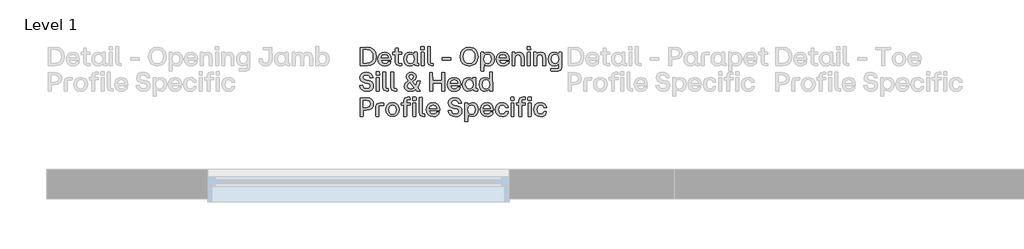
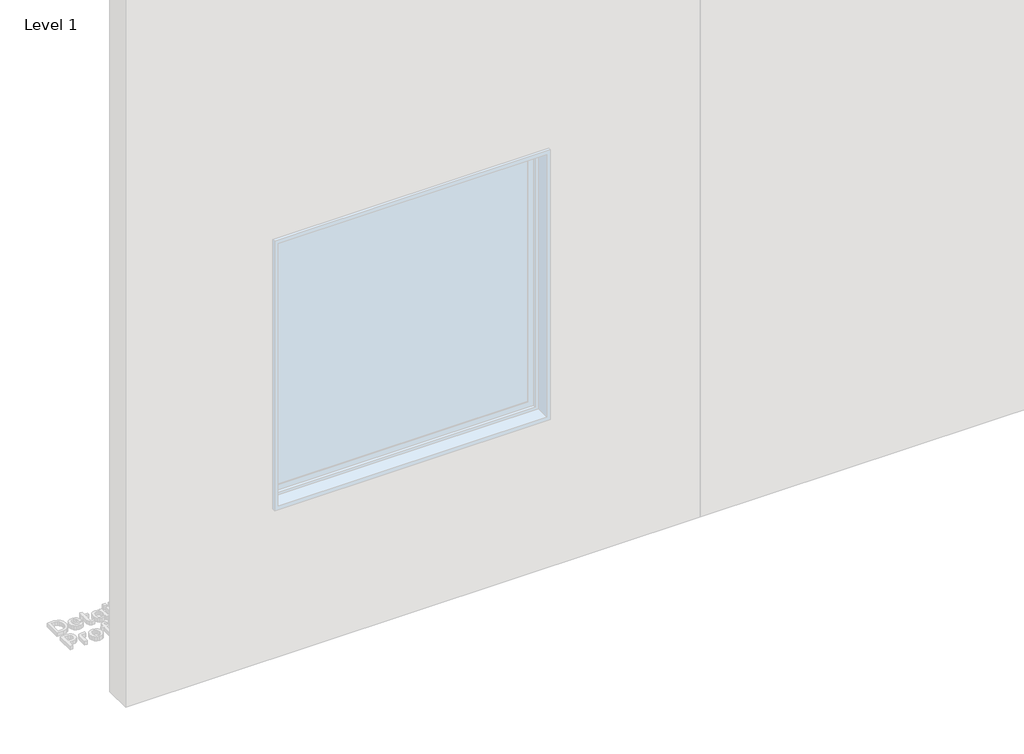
# One storey, part 38 of 64: 1 proxy.
"""IFC4 building model written with IfcOpenShell, lengths in millimetres."""

from ifc_helpers import new_model, si_unit, origin, origin_with_axes, place, context, project, spatial, polyline, outline, extrude, element, save

model = new_model("IFC4")

# Units and contexts
model_context = context("Model", 3, world=origin())
ifc_project = project(units=[si_unit("LENGTHUNIT", "METRE", prefix="MILLI")], contexts=[model_context])

# Site, building, storey
site = spatial("IfcSite", under=ifc_project)
building = spatial("IfcBuilding", under=site)
storey = spatial("IfcBuildingStorey", under=building, Name="Level 1", Elevation=0.0)

# Proxy
placement = place(None, origin())
element("IfcBuildingElementProxy", 1, Name="90mm", ObjectType="90mm", at=placement, inside=storey, context=model_context, shape_type="SweptSolid", body=[
    extrude(outline(polyline([(15110.2926176, -6500.0), (15108.9872124, -6498.7448027), (15108.9872124, -6411.3077612), (15142.5511873, -6410.002356), (15160.5475781, -6413.0054155), (15174.1193986, -6422.0145938), (15182.63905, -6436.3583606), (15185.4789338, -6455.3651852), (15182.648464, -6474.2025582), (15174.1570545, -6488.2890095), (15160.594648, -6497.0722524), (15142.5511873, -6500.0), (15110.2926176, -6500.0)]), holes=[polyline([(15123.7985402, -6487.3727155), (15141.6725492, -6487.3727155), (15153.8950326, -6485.311054), (15162.9481429, -6479.1260695), (15168.5494607, -6469.0625254), (15170.4165666, -6455.3651852), (15168.5431847, -6441.5109454), (15162.923039, -6431.1775339), (15153.8636527, -6424.7477859), (15141.6725492, -6422.6045366), (15123.7985402, -6422.6045366), (15123.7985402, -6487.3727155)])]), origin_with_axes(), (0.0, 0.0, 1.0), 20.0),
    extrude(outline(polyline([(15227.628458, -6500.7531184), (15214.0409476, -6498.4843493), (15203.5035666, -6491.6780421), (15196.7443293, -6481.0622112), (15194.4912502, -6467.3648711), (15196.7349153, -6453.5012173), (15203.4659107, -6442.7881086), (15213.9938777, -6435.9347315), (15227.628458, -6433.6502725), (15240.1584647, -6435.9033516), (15249.7324819, -6442.6625889), (15255.8044987, -6453.3129377), (15257.8285043, -6467.2393514), (15257.8285043, -6470.6785919), (15256.573307, -6472.009101), (15209.1268503, -6472.009101), (15214.6497183, -6484.6865934), (15227.628458, -6489.2053035), (15238.0465953, -6486.9082925), (15243.4439436, -6480.4691305), (15244.8246606, -6479.4147648), (15256.1967478, -6479.4147648), (15254.1633282, -6488.7314665), (15247.8120301, -6495.1925945), (15238.8248176, -6499.3629874), (15227.628458, -6500.7531184)]), holes=[polyline([(15209.2523701, -6461.5909637), (15243.8205028, -6461.5909637), (15239.0633051, -6449.6289337), (15227.628458, -6445.2733992), (15214.8631018, -6449.4155502), (15209.2523701, -6461.5909637)])]), origin_with_axes(), (0.0, 0.0, 1.0), 20.0),
    extrude(outline(polyline([(15296.6140998, -6500.0), (15282.731618, -6495.2302504), (15277.9618684, -6481.3477686), (15277.9618684, -6445.7754781), (15266.7906127, -6445.7754781), (15265.4852076, -6435.7339), (15266.7906127, -6434.4787027), (15277.9618684, -6434.4787027), (15277.9618684, -6416.45407), (15279.2170657, -6415.1486648), (15290.9657121, -6415.1486648), (15292.2209094, -6416.45407), (15292.2209094, -6434.4787027), (15308.0363949, -6434.4787027), (15309.3418001, -6435.7339), (15309.3418001, -6444.444969), (15292.2209094, -6445.7754781), (15292.2209094, -6488.7032246), (15308.0363949, -6488.7032246), (15309.3418001, -6489.9584219), (15309.3418001, -6498.7448027), (15308.0363949, -6500.0), (15296.6140998, -6500.0)])), origin_with_axes(), (0.0, 0.0, 1.0), 20.0),
    extrude(outline(polyline([(15347.2738615, -6500.7531184), (15335.3243835, -6498.4843493), (15326.0861316, -6491.6780421), (15320.1741525, -6481.0622112), (15318.2034928, -6467.3648711), (15320.1741525, -6453.5325972), (15326.0861316, -6442.8132125), (15335.3243835, -6435.9410075), (15347.2738615, -6433.6502725), (15359.1856835, -6436.5372262), (15368.160344, -6444.444969), (15368.7377347, -6435.7339), (15369.992932, -6434.4787027), (15381.6662665, -6434.4787027), (15382.9716717, -6435.7339), (15382.9716717, -6488.7032246), (15390.0760882, -6488.7032246), (15391.3312855, -6489.9584219), (15391.3312855, -6498.7448027), (15390.0760882, -6500.0), (15380.536589, -6500.0), (15372.1581473, -6497.6465051), (15369.3653333, -6490.5860205), (15359.7254183, -6497.8661646), (15347.2738615, -6500.7531184)]), holes=[polyline([(15332.7135732, -6467.3648711), (15337.6716024, -6483.3686362), (15343.5365116, -6487.7461367), (15351.2151809, -6489.2053035), (15358.7714684, -6487.7524127), (15364.470064, -6483.3937402), (15369.2398136, -6467.3648711), (15364.4324081, -6451.1728263), (15358.7243985, -6446.748256), (15351.2151809, -6445.2733992), (15343.5365116, -6446.748256), (15337.6716024, -6451.1728263), (15332.7135732, -6467.3648711)])]), origin_with_axes(), (0.0, 0.0, 1.0), 20.0),
    extrude(outline(polyline([(15403.6824266, -6500.0), (15402.3770214, -6498.7448027), (15402.3770214, -6435.7339), (15403.6824266, -6434.4787027), (15415.3557612, -6434.4787027), (15416.6109584, -6435.7339), (15416.6109584, -6498.7448027), (15415.3557612, -6500.0), (15403.6824266, -6500.0)])), origin_with_axes(), (0.0, 0.0, 1.0), 20.0),
    extrude(outline(polyline([(15401.3728636, -6421.8514182), (15401.3728636, -6407.9940404), (15402.6280609, -6406.6635313), (15416.4854387, -6406.6635313), (15417.8159478, -6421.8514182), (15416.4854387, -6423.1066155), (15402.6280609, -6423.1066155), (15401.3728636, -6421.8514182)])), origin_with_axes(), (0.0, 0.0, 1.0), 20.0),
    extrude(outline(polyline([(15451.5305464, -6500.0), (15437.6731686, -6495.2302504), (15432.903419, -6481.3477686), (15432.903419, -6408.7471587), (15445.8821587, -6407.4166496), (15447.137356, -6408.7471587), (15447.137356, -6488.7032246), (15459.1370418, -6488.7032246), (15460.3922391, -6489.9584219), (15460.3922391, -6498.7448027), (15459.1370418, -6500.0), (15451.5305464, -6500.0)])), origin_with_axes(), (0.0, 0.0, 1.0), 20.0),
    extrude(outline(polyline([(15505.1776775, -6472.887739), (15503.9224803, -6471.5572299), (15503.9224803, -6461.5909637), (15505.1776775, -6460.2604546), (15543.7875455, -6460.2604546), (15545.0427427, -6461.5909637), (15545.0427427, -6471.5572299), (15543.7875455, -6472.887739), (15505.1776775, -6472.887739)])), origin_with_axes(), (0.0, 0.0, 1.0), 20.0),
    extrude(outline(polyline([(15633.1575908, -6500.7531184), (15615.6946589, -6497.6465051), (15602.0663545, -6488.3266654), (15593.2831117, -6473.8730689), (15590.355364, -6455.3651852), (15593.2893876, -6436.62509), (15602.0914585, -6421.92673), (15615.7260388, -6412.4186107), (15633.1575908, -6409.2492376), (15655.6883817, -6414.9603852), (15664.302173, -6421.8639702), (15670.6879891, -6431.1524299), (15675.9598176, -6455.3651852), (15670.6879891, -6479.1637254), (15664.302173, -6488.2952855), (15655.6883817, -6495.1047307), (15633.1575908, -6500.7531184)]), holes=[polyline([(15605.4177312, -6455.3651852), (15607.2848372, -6468.9307297), (15612.886155, -6479.352005), (15621.6882258, -6485.9888605), (15633.1575908, -6488.2011457), (15644.6740257, -6485.9951365), (15653.4666826, -6479.3771089), (15659.0397584, -6468.9621096), (15660.8974504, -6455.3651852), (15659.0303445, -6441.4952554), (15653.4290267, -6430.8637346), (15644.6269558, -6424.1044973), (15633.1575908, -6421.8514182), (15621.6882258, -6424.1044973), (15612.886155, -6430.8637346), (15607.2848372, -6441.4952554), (15605.4177312, -6455.3651852)])]), origin_with_axes(), (0.0, 0.0, 1.0), 20.0),
    extrude(outline(polyline([(15691.2732242, -6524.4010349), (15689.9678191, -6523.1458376), (15689.9678191, -6435.7339), (15691.2732242, -6434.4787027), (15702.3189602, -6434.4787027), (15703.5741575, -6435.7339), (15703.5741575, -6444.3194493), (15713.2140725, -6436.5372262), (15725.6656293, -6433.6502725), (15737.6151073, -6435.9253176), (15746.8533592, -6442.7504527), (15752.7653383, -6453.3913875), (15754.735998, -6467.1138316), (15752.7653383, -6480.9210016), (15746.8533592, -6491.6152823), (15737.6151073, -6498.4686593), (15725.6656293, -6500.7531184), (15713.7538073, -6497.8661646), (15704.7791468, -6489.9584219), (15704.2017561, -6523.1458376), (15702.9465588, -6524.4010349), (15691.2732242, -6524.4010349)]), holes=[polyline([(15703.6996772, -6467.1138316), (15708.5070827, -6483.3058764), (15714.2150923, -6487.7304467), (15721.7243099, -6489.2053035), (15729.4029792, -6487.7304467), (15735.2678884, -6483.3058764), (15740.2259176, -6467.1138316), (15735.2678884, -6451.1100665), (15729.4029792, -6446.732566), (15721.7243099, -6445.2733992), (15714.1680224, -6446.723152), (15708.4694268, -6451.0724106), (15703.6996772, -6467.1138316)])]), origin_with_axes(), (0.0, 0.0, 1.0), 20.0),
    extrude(outline(polyline([(15796.3834433, -6500.7531184), (15782.7959329, -6498.4843493), (15772.2585519, -6491.6780421), (15765.4993146, -6481.0622112), (15763.2462355, -6467.3648711), (15765.4899006, -6453.5012173), (15772.2208959, -6442.7881086), (15782.748863, -6435.9347315), (15796.3834433, -6433.6502725), (15808.91345, -6435.9033516), (15818.4874672, -6442.6625889), (15824.559484, -6453.3129377), (15826.5834895, -6467.2393514), (15826.5834895, -6470.6785919), (15825.3282923, -6472.009101), (15777.8818356, -6472.009101), (15783.4047036, -6484.6865934), (15796.3834433, -6489.2053035), (15806.8015806, -6486.9082925), (15812.1989289, -6480.4691305), (15813.5796459, -6479.4147648), (15824.9517331, -6479.4147648), (15822.9183135, -6488.7314665), (15816.5670154, -6495.1925945), (15807.5798029, -6499.3629874), (15796.3834433, -6500.7531184)]), holes=[polyline([(15778.0073553, -6461.5909637), (15812.5754881, -6461.5909637), (15807.8182904, -6449.6289337), (15796.3834433, -6445.2733992), (15783.6180871, -6449.4155502), (15778.0073553, -6461.5909637)])]), origin_with_axes(), (0.0, 0.0, 1.0), 20.0),
    extrude(outline(polyline([(15840.6919068, -6500.0), (15839.3865017, -6498.7448027), (15839.3865017, -6435.7339), (15840.6919068, -6434.4787027), (15851.7376428, -6434.4787027), (15852.99284, -6435.7339), (15852.99284, -6444.444969), (15862.2875758, -6436.3489466), (15874.2056738, -6433.6502725), (15884.1311462, -6435.5330684), (15891.4144284, -6441.1814561), (15895.8860686, -6450.4573639), (15897.3766154, -6463.2227201), (15897.3766154, -6498.7448027), (15896.0461063, -6500.0), (15884.3727717, -6500.0), (15883.0673665, -6498.7448027), (15883.0673665, -6463.2227201), (15879.5528142, -6449.942733), (15868.4443184, -6445.7754781), (15857.2354068, -6450.0054929), (15853.6204387, -6463.2227201), (15853.6204387, -6498.7448027), (15852.3652414, -6500.0), (15840.6919068, -6500.0)])), origin_with_axes(), (0.0, 0.0, 1.0), 20.0),
    extrude(outline(polyline([(15914.5979219, -6500.0), (15913.2925167, -6498.7448027), (15913.2925167, -6435.7339), (15914.5979219, -6434.4787027), (15926.2712564, -6434.4787027), (15927.5264537, -6435.7339), (15927.5264537, -6498.7448027), (15926.2712564, -6500.0), (15914.5979219, -6500.0)])), origin_with_axes(), (0.0, 0.0, 1.0), 20.0),
    extrude(outline(polyline([(15912.2883589, -6421.8514182), (15912.2883589, -6407.9940404), (15913.5435562, -6406.6635313), (15927.400934, -6406.6635313), (15928.7314431, -6421.8514182), (15927.400934, -6423.1066155), (15913.5435562, -6423.1066155), (15912.2883589, -6421.8514182)])), origin_with_axes(), (0.0, 0.0, 1.0), 20.0),
    extrude(outline(polyline([(15945.1243194, -6500.0), (15943.8189142, -6498.7448027), (15943.8189142, -6435.7339), (15945.1243194, -6434.4787027), (15956.1700553, -6434.4787027), (15957.4252526, -6435.7339), (15957.4252526, -6444.444969), (15966.7199883, -6436.3489466), (15978.6380864, -6433.6502725), (15988.5635588, -6435.5330684), (15995.8468409, -6441.1814561), (16000.3184812, -6450.4573639), (16001.8090279, -6463.2227201), (16001.8090279, -6498.7448027), (16000.4785188, -6500.0), (15988.8051842, -6500.0), (15987.4997791, -6498.7448027), (15987.4997791, -6463.2227201), (15983.9852267, -6449.942733), (15972.8767309, -6445.7754781), (15961.6678193, -6450.0054929), (15958.0528512, -6463.2227201), (15958.0528512, -6498.7448027), (15956.797654, -6500.0), (15945.1243194, -6500.0)])), origin_with_axes(), (0.0, 0.0, 1.0), 20.0),
    extrude(outline(polyline([(16027.5154679, -6524.4010349), (16026.1849588, -6523.1458376), (16026.1849588, -6514.3594567), (16027.5154679, -6513.1042595), (16064.4182676, -6513.1042595), (16064.4182676, -6489.9584219), (16054.8662164, -6497.8661646), (16042.9543943, -6500.7531184), (16031.0049163, -6498.4686593), (16021.7666645, -6491.6152823), (16015.8546853, -6480.9210016), (16013.8840256, -6467.1138316), (16015.8546853, -6453.3913875), (16021.7666645, -6442.7504527), (16031.0049163, -6435.9253176), (16042.9543943, -6433.6502725), (16055.4059512, -6436.5372262), (16064.5437873, -6444.3194493), (16065.0458662, -6435.7339), (16066.3010635, -6434.4787027), (16077.3467994, -6434.4787027), (16078.6522046, -6435.7339), (16078.6522046, -6506.4015061), (16074.0079747, -6519.7944609), (16060.6526758, -6524.4010349), (16027.5154679, -6524.4010349)]), holes=[polyline([(16028.394106, -6467.1138316), (16033.3521352, -6483.3058764), (16039.2170444, -6487.7304467), (16046.8957137, -6489.2053035), (16054.4049314, -6487.7304467), (16060.1129409, -6483.3058764), (16064.9203465, -6467.1138316), (16060.1505969, -6451.0724106), (16054.4520013, -6446.723152), (16046.8957137, -6445.2733992), (16039.2170444, -6446.732566), (16033.3521352, -6451.1100665), (16028.394106, -6467.1138316)])]), origin_with_axes(), (0.0, 0.0, 1.0), 20.0),
    extrude(outline(polyline([(15141.1202624, -6622.8861684), (15127.3507484, -6621.0347524), (15116.6690197, -6615.4805045), (15109.4077035, -6606.5058441), (15105.8994272, -6594.3931904), (15119.1543103, -6592.9371616), (15120.4597154, -6594.142151), (15126.647838, -6606.6941236), (15141.1202624, -6610.5852352), (15153.6345792, -6607.007923), (15158.1156334, -6597.0793126), (15155.0152962, -6588.8326665), (15144.6348148, -6584.7281715), (15132.7606486, -6582.644544), (15121.7557066, -6579.3904451), (15113.8950337, -6574.0715467), (15109.17863, -6566.6878488), (15107.6064954, -6557.2393514), (15109.621087, -6546.397585), (15115.6648619, -6538.2231128), (15125.3173289, -6533.0924939), (15138.1579969, -6531.3822877), (15150.8919732, -6533.1144599), (15160.8268595, -6538.3109766), (15167.6174767, -6546.6643144), (15170.9186455, -6557.86695), (15157.7390742, -6559.2978749), (15156.3081494, -6557.86695), (15150.496586, -6547.1601173), (15138.1579969, -6543.7334288), (15126.3967985, -6546.8714219), (15122.3425113, -6556.034362), (15125.9574795, -6564.732879), (15137.2793588, -6569.2892451), (15149.0782131, -6571.3477686), (15159.8980135, -6574.5171417), (15167.2534695, -6579.6069666), (15171.4709323, -6586.9373187), (15172.8767533, -6596.8282731), (15170.7648839, -6607.7422134), (15164.4292757, -6615.9825834), (15154.3782836, -6621.1602721), (15141.1202624, -6622.8861684)])), origin_with_axes(), (0.0, 0.0, 1.0), 20.0),
    extrude(outline(polyline([(15188.3909915, -6622.13305), (15187.0855863, -6620.8778528), (15187.0855863, -6557.86695), (15188.3909915, -6556.6117527), (15200.0643261, -6556.6117527), (15201.3195233, -6557.86695), (15201.3195233, -6620.8778528), (15200.0643261, -6622.13305), (15188.3909915, -6622.13305)])), origin_with_axes(), (0.0, 0.0, 1.0), 20.0),
    extrude(outline(polyline([(15186.0814285, -6543.9844682), (15186.0814285, -6530.1270904), (15187.3366258, -6528.7965813), (15201.1940036, -6528.7965813), (15202.5245127, -6543.9844682), (15201.1940036, -6545.2396655), (15187.3366258, -6545.2396655), (15186.0814285, -6543.9844682)])), origin_with_axes(), (0.0, 0.0, 1.0), 20.0),
    extrude(outline(polyline([(15236.2391113, -6622.13305), (15222.3817335, -6617.3633004), (15217.6119838, -6603.4808186), (15217.6119838, -6530.8802088), (15230.5907236, -6529.5496997), (15231.8459208, -6530.8802088), (15231.8459208, -6610.8362746), (15243.8456067, -6610.8362746), (15245.100804, -6612.0914719), (15245.100804, -6620.8778528), (15243.8456067, -6622.13305), (15236.2391113, -6622.13305)])), origin_with_axes(), (0.0, 0.0, 1.0), 20.0),
    extrude(outline(polyline([(15274.7987713, -6622.13305), (15260.9413935, -6617.3633004), (15256.1716439, -6603.4808186), (15256.1716439, -6530.8802088), (15269.1503836, -6529.5496997), (15270.4055809, -6530.8802088), (15270.4055809, -6610.8362746), (15282.4052667, -6610.8362746), (15283.660464, -6612.0914719), (15283.660464, -6620.8778528), (15282.4052667, -6622.13305), (15274.7987713, -6622.13305)])), origin_with_axes(), (0.0, 0.0, 1.0), 20.0),
    extrude(outline(polyline([(15350.8637256, -6622.8861684), (15338.8201079, -6621.3171718), (15329.7010997, -6616.610182), (15323.9585722, -6609.1229304), (15322.0443964, -6599.2131479), (15326.4752428, -6583.8997413), (15340.1945489, -6573.8079553), (15338.9895595, -6571.9753673), (15332.7261251, -6562.6366996), (15330.7805694, -6552.2185623), (15332.3558419, -6543.4164915), (15337.0816597, -6536.8423958), (15344.6630511, -6532.7473147), (15354.8050451, -6531.3822877), (15364.8717271, -6532.7159348), (15372.4782226, -6536.716876), (15377.2605241, -6543.0713122), (15378.8546247, -6551.4654439), (15374.109979, -6565.5236533), (15360.5789525, -6575.3643999), (15377.0220367, -6595.0207891), (15383.6243743, -6574.1845144), (15384.8795716, -6572.9293172), (15396.603114, -6572.9293172), (15397.7327916, -6574.1845144), (15394.1554793, -6590.3891112), (15385.6828978, -6604.3594567), (15399.0633007, -6620.5515015), (15382.2938652, -6622.13305), (15380.7876285, -6621.3799317), (15375.6413197, -6615.1541532), (15364.1562647, -6621.0661323), (15350.8637256, -6622.8861684)]), holes=[polyline([(15336.5544768, -6596.9537929), (15340.5711081, -6607.6982815), (15352.3699624, -6611.3383535), (15367.683369, -6606.4430842), (15346.7215747, -6581.1383073), (15339.0962513, -6587.6653331), (15336.5544768, -6596.9537929)]), polyline([(15345.3408577, -6552.2185623), (15346.7215747, -6558.2435092), (15351.3658045, -6564.9462626), (15353.5498478, -6567.5319689), (15361.6458702, -6560.7539037), (15364.3445443, -6551.4654439), (15361.9596695, -6545.0639379), (15354.8050451, -6542.9301025), (15347.6253167, -6545.2145615), (15345.3408577, -6552.2185623)])]), origin_with_axes(), (0.0, 0.0, 1.0), 20.0),
    extrude(outline(polyline([(15502.1652041, -6622.13305), (15500.9100068, -6620.8778528), (15500.9100068, -6582.644544), (15457.9822603, -6582.644544), (15457.9822603, -6620.8778528), (15456.6517512, -6622.13305), (15444.4763378, -6622.13305), (15443.1709326, -6620.8778528), (15443.1709326, -6533.4408112), (15456.6517512, -6532.135406), (15457.9822603, -6570.0925714), (15500.9100068, -6570.0925714), (15500.9100068, -6533.4408112), (15502.1652041, -6532.135406), (15514.3908255, -6532.135406), (15515.6460228, -6533.4408112), (15515.6460228, -6620.8778528), (15514.3908255, -6622.13305), (15502.1652041, -6622.13305)])), origin_with_axes(), (0.0, 0.0, 1.0), 20.0),
    extrude(outline(polyline([(15561.8121782, -6622.8861684), (15548.2246678, -6620.6173993), (15537.6872867, -6613.8110921), (15530.9280495, -6603.1952613), (15528.6749704, -6589.4979211), (15530.9186355, -6575.6342673), (15537.6496308, -6564.9211586), (15548.1775979, -6558.0677815), (15561.8121782, -6555.7833225), (15574.3421849, -6558.0364016), (15583.9162021, -6564.7956389), (15589.9882188, -6575.4459877), (15592.0122244, -6589.3724014), (15592.0122244, -6592.8116419), (15590.7570272, -6594.142151), (15543.3105705, -6594.142151), (15548.8334385, -6606.8196434), (15561.8121782, -6611.3383535), (15572.2303155, -6609.0413425), (15577.6276638, -6602.6021806), (15579.0083808, -6601.5478148), (15590.380468, -6601.5478148), (15588.3470484, -6610.8645166), (15581.9957502, -6617.3256445), (15573.0085378, -6621.4960374), (15561.8121782, -6622.8861684)]), holes=[polyline([(15543.4360902, -6583.7240137), (15578.0042229, -6583.7240137), (15573.2470253, -6571.7619837), (15561.8121782, -6567.4064492), (15549.046822, -6571.5486002), (15543.4360902, -6583.7240137)])]), origin_with_axes(), (0.0, 0.0, 1.0), 20.0),
    extrude(outline(polyline([(15630.0447016, -6622.8861684), (15618.0952236, -6620.6173993), (15608.8569717, -6613.8110921), (15602.9449926, -6603.1952613), (15600.9743329, -6589.4979211), (15602.9449926, -6575.6656472), (15608.8569717, -6564.9462626), (15618.0952236, -6558.0740575), (15630.0447016, -6555.7833225), (15641.9565237, -6558.6702762), (15650.9311841, -6566.578019), (15651.5085749, -6557.86695), (15652.7637721, -6556.6117527), (15664.4371067, -6556.6117527), (15665.7425119, -6557.86695), (15665.7425119, -6610.8362746), (15672.8469284, -6610.8362746), (15674.1021256, -6612.0914719), (15674.1021256, -6620.8778528), (15672.8469284, -6622.13305), (15663.3074292, -6622.13305), (15654.9289874, -6619.7795551), (15652.1361735, -6612.7190705), (15642.4962585, -6619.9992147), (15630.0447016, -6622.8861684)]), holes=[polyline([(15615.4844133, -6589.4979211), (15620.4424425, -6605.5016862), (15626.3073517, -6609.8791867), (15633.986021, -6611.3383535), (15641.5423086, -6609.8854627), (15647.2409041, -6605.5267902), (15652.0106538, -6589.4979211), (15647.2032482, -6573.3058764), (15641.4952387, -6568.881306), (15633.986021, -6567.4064492), (15626.3073517, -6568.881306), (15620.4424425, -6573.3058764), (15615.4844133, -6589.4979211)])]), origin_with_axes(), (0.0, 0.0, 1.0), 20.0),
    extrude(outline(polyline([(15710.3773266, -6622.8861684), (15698.4278487, -6620.6173993), (15689.1895968, -6613.8110921), (15683.2776177, -6603.1952613), (15681.306958, -6589.4979211), (15683.2776177, -6575.6656472), (15689.1895968, -6564.9462626), (15698.4278487, -6558.0740575), (15710.3773266, -6555.7833225), (15722.2891487, -6558.6702762), (15731.2638091, -6566.578019), (15731.8411999, -6530.8802088), (15733.0963972, -6529.5496997), (15744.7697317, -6529.5496997), (15746.0751369, -6620.8778528), (15744.7697317, -6622.13305), (15733.7239958, -6622.13305), (15732.4687985, -6620.8778528), (15732.4687985, -6612.2169916), (15722.8288835, -6619.9992147), (15710.3773266, -6622.8861684)]), holes=[polyline([(15695.8170383, -6589.4979211), (15700.7750676, -6605.5016862), (15706.6399768, -6609.8791867), (15714.3186461, -6611.3383535), (15721.8749336, -6609.8854627), (15727.5735292, -6605.5267902), (15732.3432788, -6589.4979211), (15727.5358733, -6573.3058764), (15721.8278637, -6568.881306), (15714.3186461, -6567.4064492), (15706.6399768, -6568.881306), (15700.7750676, -6573.3058764), (15695.8170383, -6589.4979211)])]), origin_with_axes(), (0.0, 0.0, 1.0), 20.0),
    extrude(outline(polyline([(15110.2926176, -6744.2661), (15108.9872124, -6743.0109028), (15108.9872124, -6655.5738612), (15140.1161046, -6654.268456), (15154.0174144, -6656.1669419), (15164.3414119, -6661.8623995), (15170.7429179, -6671.0567195), (15172.8767533, -6683.4517925), (15170.7429179, -6695.8468655), (15164.3414119, -6705.0411855), (15154.0174144, -6710.7366431), (15140.1161046, -6712.6351289), (15123.7985402, -6712.6351289), (15123.7985402, -6743.0109028), (15122.4680311, -6744.2661), (15110.2926176, -6744.2661)]), holes=[polyline([(15123.7985402, -6700.0078444), (15140.1161046, -6700.0078444), (15153.5969233, -6695.9284533), (15157.9901137, -6683.4392405), (15153.5969233, -6670.9500277), (15140.1161046, -6666.8706366), (15123.7985402, -6666.8706366), (15123.7985402, -6700.0078444)])]), origin_with_axes(), (0.0, 0.0, 1.0), 20.0),
    extrude(outline(polyline([(15186.1065325, -6744.2661), (15184.8513352, -6743.0109028), (15184.8513352, -6697.3217223), (15189.6210848, -6683.4768964), (15203.4784626, -6678.7448027), (15221.7541348, -6678.7448027), (15223.0093321, -6680.0), (15223.0093321, -6689.5394992), (15221.7541348, -6690.7946965), (15199.0852722, -6690.7946965), (15199.0852722, -6743.0109028), (15197.8300749, -6744.2661), (15186.1065325, -6744.2661)])), origin_with_axes(), (0.0, 0.0, 1.0), 20.0),
    extrude(outline(polyline([(15264.2049064, -6745.0192184), (15250.9782652, -6742.7127934), (15240.519334, -6735.7935185), (15233.7130268, -6725.1400317), (15231.4442577, -6711.6309711), (15233.7193028, -6698.0340467), (15240.5444379, -6687.2675922), (15251.0096451, -6680.2541774), (15264.2049064, -6677.9163725), (15277.5570673, -6680.2541774), (15288.0913103, -6687.2675922), (15294.9352734, -6698.0340467), (15297.2165945, -6711.6309711), (15294.9352734, -6725.1400317), (15288.0913103, -6735.7935185), (15277.5570673, -6742.7127934), (15264.2049064, -6745.0192184)]), holes=[polyline([(15245.9543381, -6711.6309711), (15250.8119515, -6727.6598402), (15256.588997, -6732.0185127), (15264.2049064, -6733.4714035), (15271.9024036, -6732.0122367), (15277.7735888, -6727.6347363), (15282.731618, -6711.6309711), (15277.7986928, -6695.4389264), (15271.9337835, -6691.014356), (15264.2049064, -6689.5394992), (15256.588997, -6691.014356), (15250.8119515, -6695.4389264), (15245.9543381, -6711.6309711)])]), origin_with_axes(), (0.0, 0.0, 1.0), 20.0),
    extrude(outline(polyline([(15319.3833782, -6744.2661), (15318.1281809, -6743.0109028), (15318.1281809, -6690.0415781), (15306.9569253, -6690.0415781), (15305.6515201, -6680.0), (15306.9569253, -6678.7448027), (15318.1281809, -6678.7448027), (15318.1281809, -6670.334981), (15322.8979305, -6656.4524993), (15336.7804123, -6651.6827497), (15348.2027074, -6651.6827497), (15349.5081126, -6661.7243278), (15332.3872219, -6663.0548369), (15332.3872219, -6678.7448027), (15348.2027074, -6678.7448027), (15349.5081126, -6680.0), (15349.5081126, -6688.711069), (15332.3872219, -6690.0415781), (15332.3872219, -6743.0109028), (15331.1320246, -6744.2661), (15319.3833782, -6744.2661)])), origin_with_axes(), (0.0, 0.0, 1.0), 20.0),
    extrude(outline(polyline([(15361.3069669, -6666.1175182), (15361.3069669, -6652.2601404), (15362.5621642, -6650.9296313), (15376.4948538, -6650.9296313), (15377.7500511, -6652.2601404), (15377.7500511, -6666.1175182), (15376.4948538, -6667.3727155), (15362.5621642, -6667.3727155), (15361.3069669, -6666.1175182)])), origin_with_axes(), (0.0, 0.0, 1.0), 20.0),
    extrude(outline(polyline([(15362.3111247, -6743.0109028), (15362.3111247, -6680.0), (15363.6416338, -6678.7448027), (15375.3149684, -6678.7448027), (15376.6203735, -6680.0), (15376.6203735, -6743.0109028), (15375.3149684, -6744.2661), (15363.6416338, -6744.2661), (15362.3111247, -6743.0109028)])), origin_with_axes(), (0.0, 0.0, 1.0), 20.0),
    extrude(outline(polyline([(15411.3642339, -6744.2661), (15397.506856, -6739.4963504), (15392.7371064, -6725.6138687), (15392.7371064, -6653.0132588), (15405.7158462, -6651.6827497), (15406.9710434, -6653.0132588), (15406.9710434, -6732.9693246), (15418.9707293, -6732.9693246), (15420.2259266, -6734.2245219), (15420.2259266, -6743.0109028), (15418.9707293, -6744.2661), (15411.3642339, -6744.2661)])), origin_with_axes(), (0.0, 0.0, 1.0), 20.0),
    extrude(outline(polyline([(15460.5930707, -6745.0192184), (15447.0055602, -6742.7504493), (15436.4681792, -6735.9441422), (15429.7089419, -6725.3283113), (15427.4558628, -6711.6309711), (15429.6995279, -6697.7673173), (15436.4305233, -6687.0542086), (15446.9584903, -6680.2008316), (15460.5930707, -6677.9163725), (15473.1230774, -6680.1694516), (15482.6970945, -6686.9286889), (15488.7691113, -6697.5790377), (15490.7931169, -6711.5054514), (15490.7931169, -6714.9446919), (15489.5379196, -6716.275201), (15442.0914629, -6716.275201), (15447.6143309, -6728.9526934), (15460.5930707, -6733.4714035), (15471.011208, -6731.1743925), (15476.4085562, -6724.7352306), (15477.7892732, -6723.6808649), (15489.1613604, -6723.6808649), (15487.1279409, -6732.9975666), (15480.7766427, -6739.4586945), (15471.7894303, -6743.6290874), (15460.5930707, -6745.0192184)]), holes=[polyline([(15442.2169827, -6705.8570637), (15476.7851154, -6705.8570637), (15472.0279177, -6693.8950337), (15460.5930707, -6689.5394992), (15447.8277145, -6693.6816502), (15442.2169827, -6705.8570637)])]), origin_with_axes(), (0.0, 0.0, 1.0), 20.0),
    extrude(outline(polyline([(15566.8831752, -6745.0192184), (15553.1136611, -6743.1678024), (15542.4319324, -6737.6135545), (15535.1706162, -6728.6388941), (15531.6623399, -6716.5262404), (15544.917223, -6715.0702116), (15546.2226282, -6716.275201), (15552.4107507, -6728.8271737), (15566.8831752, -6732.7182852), (15579.3974919, -6729.140973), (15583.8785461, -6719.2123626), (15580.7782089, -6710.9657166), (15570.3977275, -6706.8612215), (15558.5235614, -6704.777594), (15547.5186193, -6701.5234951), (15539.6579465, -6696.2045967), (15534.9415427, -6688.8208988), (15533.3694082, -6679.3724014), (15535.3839998, -6668.530635), (15541.4277746, -6660.3561628), (15551.0802416, -6655.225544), (15563.9209096, -6653.5153377), (15576.6548859, -6655.2475099), (15586.5897722, -6660.4440266), (15593.3803895, -6668.7973644), (15596.6815583, -6680.0), (15583.501987, -6681.4309249), (15582.0710621, -6680.0), (15576.2594987, -6669.2931673), (15563.9209096, -6665.8664788), (15552.1597112, -6669.0044719), (15548.1054241, -6678.167412), (15551.7203922, -6686.865929), (15563.0422715, -6691.4222951), (15574.8411258, -6693.4808186), (15585.6609263, -6696.6501917), (15593.0163822, -6701.7400167), (15597.2338451, -6709.0703687), (15598.639666, -6718.9613231), (15596.5277966, -6729.8752634), (15590.1921884, -6738.1156334), (15580.1411963, -6743.2933222), (15566.8831752, -6745.0192184)])), origin_with_axes(), (0.0, 0.0, 1.0), 20.0),
    extrude(outline(polyline([(15614.1539042, -6768.6671349), (15612.848499, -6767.4119376), (15612.848499, -6680.0), (15614.1539042, -6678.7448027), (15625.1996401, -6678.7448027), (15626.4548374, -6680.0), (15626.4548374, -6688.5855493), (15636.0947524, -6680.8033263), (15648.5463093, -6677.9163725), (15660.4957873, -6680.1914176), (15669.7340392, -6687.0165527), (15675.6460183, -6697.6574875), (15677.616678, -6711.3799317), (15675.6460183, -6725.1871016), (15669.7340392, -6735.8813823), (15660.4957873, -6742.7347594), (15648.5463093, -6745.0192184), (15636.6344872, -6742.1322647), (15627.6598268, -6734.2245219), (15627.082436, -6767.4119376), (15625.8272388, -6768.6671349), (15614.1539042, -6768.6671349)]), holes=[polyline([(15626.5803571, -6711.3799317), (15631.3877627, -6727.5719764), (15637.0957722, -6731.9965468), (15644.6049899, -6733.4714035), (15652.2836592, -6731.9965468), (15658.1485684, -6727.5719764), (15663.1065976, -6711.3799317), (15658.1485684, -6695.3761665), (15652.2836592, -6690.998666), (15644.6049899, -6689.5394992), (15637.0487023, -6690.9892521), (15631.3501068, -6695.3385106), (15626.5803571, -6711.3799317)])]), origin_with_axes(), (0.0, 0.0, 1.0), 20.0),
    extrude(outline(polyline([(15719.2641233, -6745.0192184), (15705.6766129, -6742.7504493), (15695.1392318, -6735.9441422), (15688.3799945, -6725.3283113), (15686.1269155, -6711.6309711), (15688.3705806, -6697.7673173), (15695.1015759, -6687.0542086), (15705.629543, -6680.2008316), (15719.2641233, -6677.9163725), (15731.79413, -6680.1694516), (15741.3681471, -6686.9286889), (15747.4401639, -6697.5790377), (15749.4641695, -6711.5054514), (15749.4641695, -6714.9446919), (15748.2089722, -6716.275201), (15700.7625156, -6716.275201), (15706.2853836, -6728.9526934), (15719.2641233, -6733.4714035), (15729.6822606, -6731.1743925), (15735.0796088, -6724.7352306), (15736.4603258, -6723.6808649), (15747.8324131, -6723.6808649), (15745.7989935, -6732.9975666), (15739.4476953, -6739.4586945), (15730.4604829, -6743.6290874), (15719.2641233, -6745.0192184)]), holes=[polyline([(15700.8880353, -6705.8570637), (15735.456168, -6705.8570637), (15730.6989704, -6693.8950337), (15719.2641233, -6689.5394992), (15706.4987671, -6693.6816502), (15700.8880353, -6705.8570637)])]), origin_with_axes(), (0.0, 0.0, 1.0), 20.0),
    extrude(outline(polyline([(15791.4379661, -6745.0192184), (15777.9445955, -6742.7504493), (15767.4385944, -6735.9441422), (15760.6793571, -6725.3283113), (15758.426278, -6711.6309711), (15760.710737, -6698.0340467), (15767.5641141, -6687.2675922), (15778.1014951, -6680.2541774), (15791.4379661, -6677.9163725), (15802.4209422, -6679.4634032), (15811.3704987, -6684.1044951), (15817.6841409, -6691.2873614), (15820.7593742, -6700.4597154), (15808.1320897, -6701.8404324), (15801.7054797, -6692.3009332), (15791.4379661, -6689.5394992), (15783.680847, -6691.014356), (15777.8316277, -6695.4389264), (15772.9363584, -6711.6309711), (15777.8567317, -6727.6974961), (15783.7122269, -6732.0279267), (15791.4379661, -6733.4714035), (15802.019279, -6730.8354893), (15807.3789714, -6722.3001479), (15808.7596884, -6721.0951585), (15820.1317756, -6721.0951585), (15818.12346, -6731.6042976), (15811.7470579, -6738.8310959), (15802.7033616, -6743.4721878), (15791.4379661, -6745.0192184)])), origin_with_axes(), (0.0, 0.0, 1.0), 20.0),
    extrude(outline(polyline([(15835.8719493, -6744.2661), (15834.5665442, -6743.0109028), (15834.5665442, -6680.0), (15835.8719493, -6678.7448027), (15847.5452839, -6678.7448027), (15848.8004812, -6680.0), (15848.8004812, -6743.0109028), (15847.5452839, -6744.2661), (15835.8719493, -6744.2661)])), origin_with_axes(), (0.0, 0.0, 1.0), 20.0),
    extrude(outline(polyline([(15833.5623863, -6666.1175182), (15833.5623863, -6652.2601404), (15834.8175836, -6650.9296313), (15848.6749614, -6650.9296313), (15850.0054705, -6666.1175182), (15848.6749614, -6667.3727155), (15834.8175836, -6667.3727155), (15833.5623863, -6666.1175182)])), origin_with_axes(), (0.0, 0.0, 1.0), 20.0),
    extrude(outline(polyline([(15873.678491, -6744.2661), (15872.4232937, -6743.0109028), (15872.4232937, -6690.0415781), (15861.252038, -6690.0415781), (15859.9466329, -6680.0), (15861.252038, -6678.7448027), (15872.4232937, -6678.7448027), (15872.4232937, -6670.334981), (15877.1930433, -6656.4524993), (15891.0755251, -6651.6827497), (15902.4978202, -6651.6827497), (15903.8032254, -6661.7243278), (15886.6823347, -6663.0548369), (15886.6823347, -6678.7448027), (15902.4978202, -6678.7448027), (15903.8032254, -6680.0), (15903.8032254, -6688.711069), (15886.6823347, -6690.0415781), (15886.6823347, -6743.0109028), (15885.4271374, -6744.2661), (15873.678491, -6744.2661)])), origin_with_axes(), (0.0, 0.0, 1.0), 20.0),
    extrude(outline(polyline([(15915.6020797, -6666.1175182), (15915.6020797, -6652.2601404), (15916.8572769, -6650.9296313), (15930.7899666, -6650.9296313), (15932.0451639, -6652.2601404), (15932.0451639, -6666.1175182), (15930.7899666, -6667.3727155), (15916.8572769, -6667.3727155), (15915.6020797, -6666.1175182)])), origin_with_axes(), (0.0, 0.0, 1.0), 20.0),
    extrude(outline(polyline([(15916.6062375, -6743.0109028), (15916.6062375, -6680.0), (15917.9367466, -6678.7448027), (15929.6100812, -6678.7448027), (15930.9154863, -6680.0), (15930.9154863, -6743.0109028), (15929.6100812, -6744.2661), (15917.9367466, -6744.2661), (15916.6062375, -6743.0109028)])), origin_with_axes(), (0.0, 0.0, 1.0), 20.0),
    extrude(outline(polyline([(15976.2030037, -6745.0192184), (15962.7096331, -6742.7504493), (15952.203632, -6735.9441422), (15945.4443947, -6725.3283113), (15943.1913156, -6711.6309711), (15945.4757746, -6698.0340467), (15952.3291517, -6687.2675922), (15962.8665327, -6680.2541774), (15976.2030037, -6677.9163725), (15987.1859798, -6679.4634032), (15996.1355363, -6684.1044951), (16002.4491785, -6691.2873614), (16005.5244118, -6700.4597154), (15992.8971273, -6701.8404324), (15986.4705173, -6692.3009332), (15976.2030037, -6689.5394992), (15968.4458846, -6691.014356), (15962.5966653, -6695.4389264), (15957.701396, -6711.6309711), (15962.6217693, -6727.6974961), (15968.4772645, -6732.0279267), (15976.2030037, -6733.4714035), (15986.7843166, -6730.8354893), (15992.144009, -6722.3001479), (15993.524726, -6721.0951585), (16004.8968132, -6721.0951585), (16002.8884976, -6731.6042976), (15996.5120955, -6738.8310959), (15987.4683992, -6743.4721878), (15976.2030037, -6745.0192184)])), origin_with_axes(), (0.0, 0.0, 1.0), 20.0),
])

save(model, "model.ifc")
